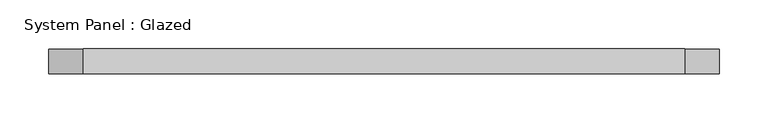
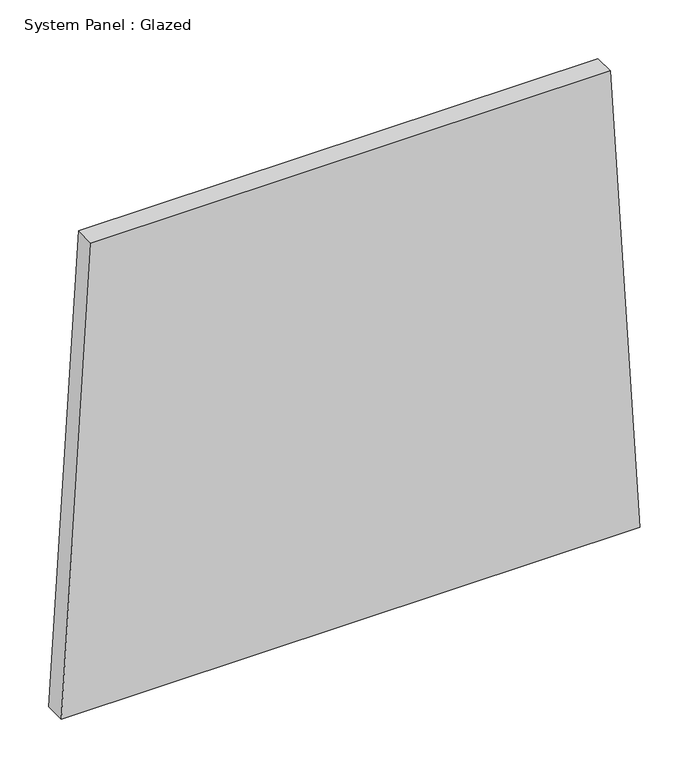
"""IFC4 building model written with IfcOpenShell, lengths in millimetres: plate geometry, System Panel : Glazed."""

from ifc_helpers import new_model, si_unit, frame, origin, place, context, project, spatial, polyline, outline, extrude, source, transform, mapped, element, save


def system_panel_glazed_67e226c0(model_context):
    return source(origin(), model_context, "Body", "SweptSolid", [
        extrude(outline(polyline([(0.0, -342.4789208), (0.0, 342.4789208), (583.0930436, 307.2914763), (583.0930436, -307.2914763), (0.0, -342.4789208)])), frame((0.0, -44.45, 0.0), z_axis=(0.0, 1.0, 0.0), x_axis=(0.0, 0.0, 1.0)), (0.0, 0.0, 1.0), 25.4),
    ])


if __name__ == "__main__":
    model = new_model("IFC4")
    model_context = context("Model", 3, world=origin())
    ifc_project = project(units=[si_unit("LENGTHUNIT", "METRE", prefix="MILLI")], contexts=[model_context])
    site = spatial("IfcSite", under=ifc_project)
    building = spatial("IfcBuilding", under=site)
    placement = place(None, origin())
    system_panel_glazed_shape = system_panel_glazed_67e226c0(model_context)
    element("IfcPlate", 1, ObjectType="System Panel : Glazed", at=placement, inside=building, context=model_context, shape_type="MappedRepresentation", body=[
        mapped(system_panel_glazed_shape, transform((0.0, 0.0, 0.0), x_axis=(1.0, 0.0, 0.0), y_axis=(0.0, 1.0, 0.0), z_axis=(0.0, 0.0, 1.0))),
    ])
    save(model, "model.ifc")
